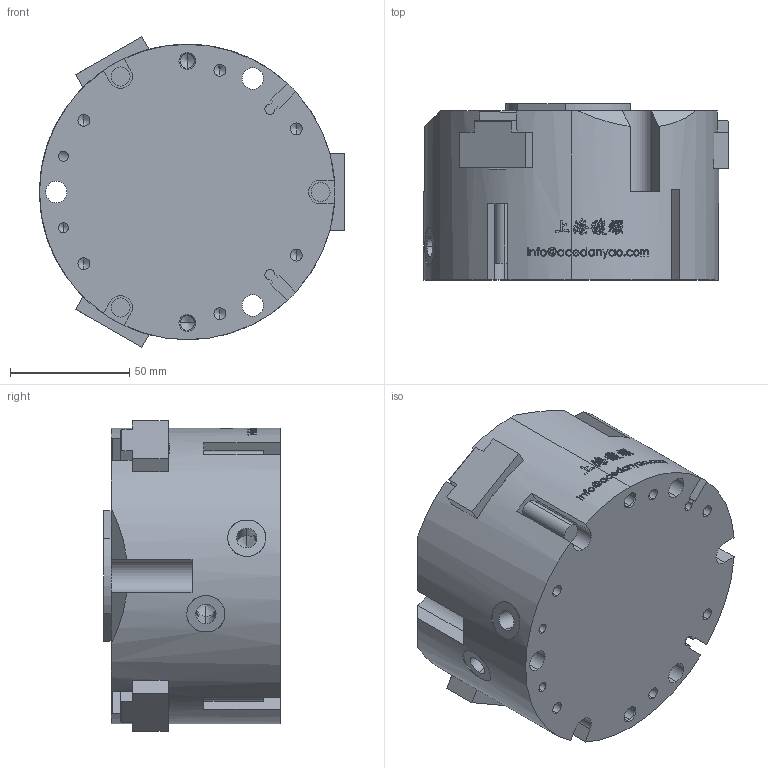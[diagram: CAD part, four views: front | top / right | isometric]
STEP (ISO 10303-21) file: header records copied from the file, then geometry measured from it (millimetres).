
FILE_DESCRIPTION (( 'STEP AP203' ), '1' );
FILE_NAME ('MAC3-125-C2-原始檔-組合-W106.04.14.STEP', '2017-04-14T03:29:21', ( 'DanyaoCAD' ), ( '' ), 'SwSTEP 2.0', 'SolidWorks 2016', '' );
FILE_SCHEMA (( 'CONFIG_CONTROL_DESIGN' ));
Products named in the file (4): Griffa; Coperchio; Corpo; MAC3-125-C2-原始檔-組合-W106.04.14
Assembly tree (5 placements, depth 2):
  MAC3-125-C2-原始檔-組合-W106.04.14
    Griffa  x3
    Coperchio
    Corpo
Bounding box: 128 x 74 x 130.32 mm (x, y, z)
Volume: 788103.1 mm3; surface area: 108504.8 mm2
Topology: 5 solids, 5 shells, 1134 faces, 3132 edges, 2048 vertices
Faces by surface type: bspline 665, plane 247, cylinder 166, cone 56
Entity records: 91009 total; most frequent: CARTESIAN_POINT 69170, ORIENTED_EDGE 5864, EDGE_CURVE 2932, B_SPLINE_CURVE_WITH_KNOTS 2046, DIRECTION 2004, VERTEX_POINT 1944, EDGE_LOOP 1158, ADVANCED_FACE 1068
